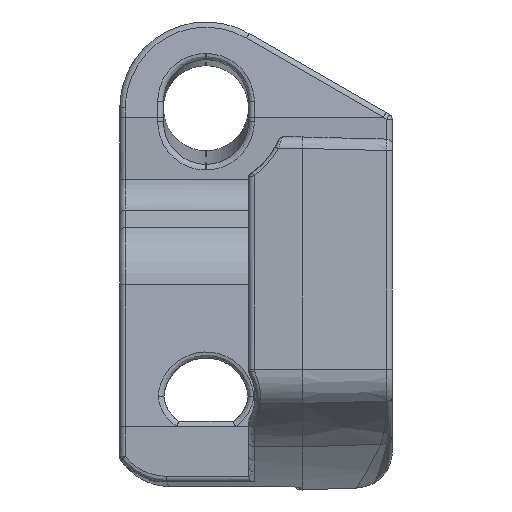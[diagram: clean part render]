
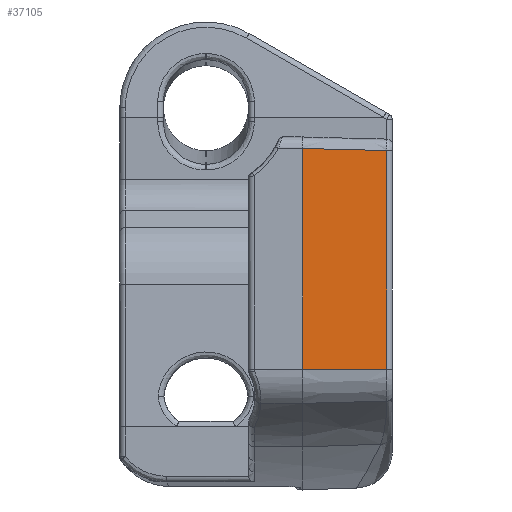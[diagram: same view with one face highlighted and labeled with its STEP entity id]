
A CAD part, left-side view. The second image highlights one B-rep face of the part: STEP entity #37105.
In plain terms, the highlighted planar face has unit normal (-0.999, -0.035, 0).
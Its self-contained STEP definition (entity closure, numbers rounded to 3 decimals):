
#12425=DIRECTION('',(0.,0.,1.));
#12426=VECTOR('',#12425,19.019);
#12427=CARTESIAN_POINT('',(-41.594,-15.717,-10.));
#12428=LINE('',#12427,#12426);
#12432=DIRECTION('',(-0.035,0.999,0.));
#12433=VECTOR('',#12432,7.322);
#12434=CARTESIAN_POINT('',(-41.594,-15.717,-10.));
#12435=LINE('',#12434,#12433);
#12439=DIRECTION('',(0.,0.,1.));
#12440=VECTOR('',#12439,19.2);
#12441=CARTESIAN_POINT('',(-41.85,-8.4,-10.));
#12442=LINE('',#12441,#12440);
#12446=CARTESIAN_POINT('',(-41.594,-15.717,
9.019));
#12447=CARTESIAN_POINT('',(-41.614,-15.161,
9.033));
#12448=CARTESIAN_POINT('',(-41.654,-14.026,
9.06));
#12449=CARTESIAN_POINT('',(-41.714,-12.286,
9.103));
#12450=CARTESIAN_POINT('',(-41.779,-10.443,
9.149));
#12451=CARTESIAN_POINT('',(-41.826,-9.098,
9.183));
#12452=CARTESIAN_POINT('',(-41.85,-8.4,
9.2));
#24112=CARTESIAN_POINT('',(-41.594,-15.717,-10.));
#24113=VERTEX_POINT('',#24112);
#24116=CARTESIAN_POINT('',(-41.594,-15.717,
9.019));
#24117=VERTEX_POINT('',#24116);
#24218=VERTEX_POINT('',#12452);
#24221=CARTESIAN_POINT('',(-41.85,-8.4,-10.));
#24222=VERTEX_POINT('',#24221);
#37091=CARTESIAN_POINT('',(-41.85,-8.4,-10.));
#37092=DIRECTION('',(0.999,0.035,0.));
#37093=DIRECTION('',(0.,0.,1.));
#37094=AXIS2_PLACEMENT_3D('',#37091,#37092,#37093);
#37095=PLANE('',#37094);
#37097=ORIENTED_EDGE('',*,*,#37096,.F.);
#37099=ORIENTED_EDGE('',*,*,#37098,.T.);
#37100=ORIENTED_EDGE('',*,*,#37083,.T.);
#37102=ORIENTED_EDGE('',*,*,#37101,.F.);
#37103=EDGE_LOOP('',(#37097,#37099,#37100,#37102));
#37104=FACE_OUTER_BOUND('',#37103,.F.);
#12453=B_SPLINE_CURVE_WITH_KNOTS('',3,(#12446,#12447,#12448,#12449,#12450,
#12451,#12452),.UNSPECIFIED.,.F.,.F.,(4,1,1,1,4),(0.,0.25,0.5,0.75,
1.),.UNSPECIFIED.);
#37083=EDGE_CURVE('',#24222,#24218,#12442,.T.);
#37096=EDGE_CURVE('',#24113,#24117,#12428,.T.);
#37098=EDGE_CURVE('',#24113,#24222,#12435,.T.);
#37101=EDGE_CURVE('',#24117,#24218,#12453,.T.);
#37105=ADVANCED_FACE('',(#37104),#37095,.F.);
